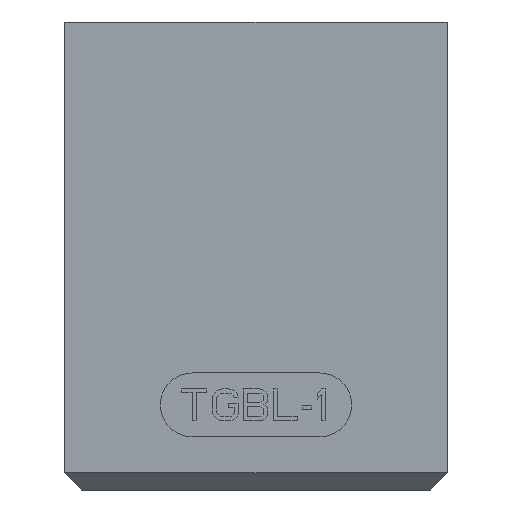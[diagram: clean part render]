
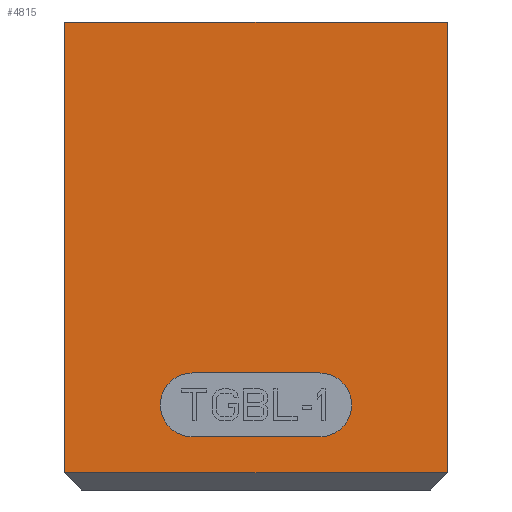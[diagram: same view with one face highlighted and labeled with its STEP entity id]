
A CAD part, front view. The second image highlights one B-rep face of the part: STEP entity #4815.
In plain terms, the highlighted planar face has unit normal (0, -1, 0).
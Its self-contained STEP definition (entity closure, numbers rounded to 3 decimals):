
#188=DIRECTION('',(0.,0.,-1.));
#189=VECTOR('',#188,21.2);
#190=CARTESIAN_POINT('',(-4.5,-4.,3.));
#191=LINE('',#190,#189);
#202=DIRECTION('',(-1.,0.,0.));
#203=VECTOR('',#202,18.);
#204=CARTESIAN_POINT('',(13.5,-4.,3.));
#205=LINE('',#204,#203);
#246=DIRECTION('',(0.,0.,-1.));
#247=VECTOR('',#246,21.2);
#248=CARTESIAN_POINT('',(13.5,-4.,3.));
#249=LINE('',#248,#247);
#253=CARTESIAN_POINT('',(1.5,-4.,-15.));
#254=DIRECTION('',(0.,-1.,0.));
#255=DIRECTION('',(0.,0.,1.));
#256=AXIS2_PLACEMENT_3D('',#253,#254,#255);
#261=CARTESIAN_POINT('',(1.5,-4.,-15.));
#262=DIRECTION('',(0.,-1.,0.));
#263=DIRECTION('',(-1.,0.,0.));
#264=AXIS2_PLACEMENT_3D('',#261,#262,#263);
#269=CARTESIAN_POINT('',(7.5,-4.,-15.));
#270=DIRECTION('',(0.,-1.,0.));
#271=DIRECTION('',(0.,0.,-1.));
#272=AXIS2_PLACEMENT_3D('',#269,#270,#271);
#277=CARTESIAN_POINT('',(7.5,-4.,-15.));
#278=DIRECTION('',(0.,-1.,0.));
#279=DIRECTION('',(1.,0.,0.));
#280=AXIS2_PLACEMENT_3D('',#277,#278,#279);
#292=DIRECTION('',(1.,0.,0.));
#293=VECTOR('',#292,18.);
#294=CARTESIAN_POINT('',(-4.5,-4.,-18.2));
#295=LINE('',#294,#293);
#313=DIRECTION('',(1.,0.,0.));
#314=VECTOR('',#313,6.);
#315=CARTESIAN_POINT('',(1.5,-4.,-13.5));
#316=LINE('',#315,#314);
#334=DIRECTION('',(-1.,0.,0.));
#335=VECTOR('',#334,6.);
#336=CARTESIAN_POINT('',(7.5,-4.,-16.5));
#337=LINE('',#336,#335);
#4028=CARTESIAN_POINT('',(13.5,-4.,-18.2));
#4029=VERTEX_POINT('',#4028);
#4030=CARTESIAN_POINT('',(13.5,-4.,3.));
#4031=VERTEX_POINT('',#4030);
#4048=CARTESIAN_POINT('',(-4.5,-4.,-18.2));
#4049=VERTEX_POINT('',#4048);
#4050=CARTESIAN_POINT('',(-4.5,-4.,3.));
#4051=VERTEX_POINT('',#4050);
#4058=CARTESIAN_POINT('',(1.5,-4.,-13.5));
#4059=CARTESIAN_POINT('',(0.,-4.,-15.));
#4060=VERTEX_POINT('',#4058);
#4061=VERTEX_POINT('',#4059);
#4062=CARTESIAN_POINT('',(1.5,-4.,-16.5));
#4063=VERTEX_POINT('',#4062);
#4064=CARTESIAN_POINT('',(7.5,-4.,-16.5));
#4065=VERTEX_POINT('',#4064);
#4066=CARTESIAN_POINT('',(9.,-4.,-15.));
#4067=VERTEX_POINT('',#4066);
#4068=CARTESIAN_POINT('',(7.5,-4.,-13.5));
#4069=VERTEX_POINT('',#4068);
#4789=CARTESIAN_POINT('',(-4.5,-4.,-19.));
#4790=DIRECTION('',(0.,-1.,0.));
#4791=DIRECTION('',(1.,0.,0.));
#4792=AXIS2_PLACEMENT_3D('',#4789,#4790,#4791);
#4793=PLANE('',#4792);
#4795=ORIENTED_EDGE('',*,*,#4794,.F.);
#4796=ORIENTED_EDGE('',*,*,#4762,.F.);
#4797=ORIENTED_EDGE('',*,*,#4773,.F.);
#4798=ORIENTED_EDGE('',*,*,#4689,.T.);
#4799=EDGE_LOOP('',(#4795,#4796,#4797,#4798));
#4800=FACE_OUTER_BOUND('',#4799,.F.);
#4802=ORIENTED_EDGE('',*,*,#4801,.T.);
#4804=ORIENTED_EDGE('',*,*,#4803,.T.);
#4806=ORIENTED_EDGE('',*,*,#4805,.F.);
#4808=ORIENTED_EDGE('',*,*,#4807,.T.);
#4810=ORIENTED_EDGE('',*,*,#4809,.T.);
#4812=ORIENTED_EDGE('',*,*,#4811,.F.);
#4813=EDGE_LOOP('',(#4802,#4804,#4806,#4808,#4810,#4812));
#4814=FACE_BOUND('',#4813,.F.);
#257=CIRCLE('',#256,1.5);
#265=CIRCLE('',#264,1.5);
#273=CIRCLE('',#272,1.5);
#281=CIRCLE('',#280,1.5);
#4689=EDGE_CURVE('',#4031,#4029,#249,.T.);
#4762=EDGE_CURVE('',#4051,#4049,#191,.T.);
#4773=EDGE_CURVE('',#4031,#4051,#205,.T.);
#4794=EDGE_CURVE('',#4049,#4029,#295,.T.);
#4801=EDGE_CURVE('',#4060,#4061,#257,.T.);
#4803=EDGE_CURVE('',#4061,#4063,#265,.T.);
#4805=EDGE_CURVE('',#4065,#4063,#337,.T.);
#4807=EDGE_CURVE('',#4065,#4067,#273,.T.);
#4809=EDGE_CURVE('',#4067,#4069,#281,.T.);
#4811=EDGE_CURVE('',#4060,#4069,#316,.T.);
#4815=ADVANCED_FACE('',(#4800,#4814),#4793,.T.);
